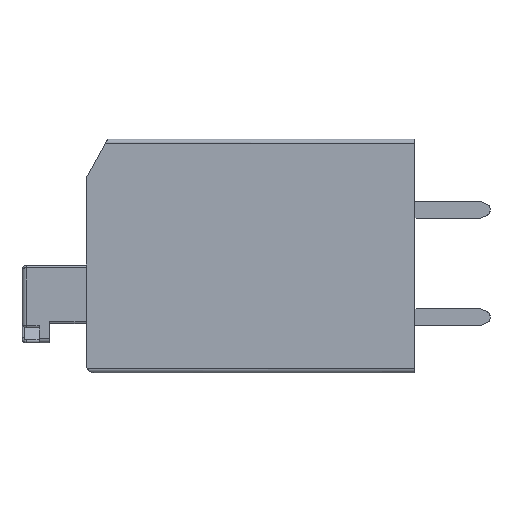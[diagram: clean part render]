
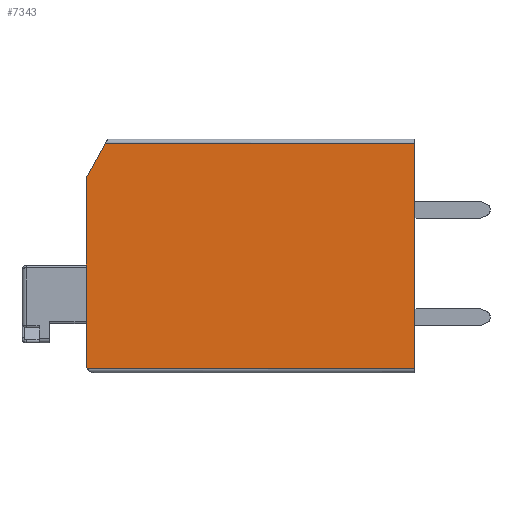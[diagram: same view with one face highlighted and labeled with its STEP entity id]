
A CAD part, left-side view. The second image highlights one B-rep face of the part: STEP entity #7343.
In plain terms, the highlighted planar face has unit normal (-1, 0, 0).
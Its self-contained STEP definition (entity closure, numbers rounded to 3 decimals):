
#189=DIRECTION('',(0.,0.,-1.));
#190=VECTOR('',#189,8.7);
#191=CARTESIAN_POINT('',(0.,15.3,-1.8));
#192=LINE('',#191,#190);
#428=CARTESIAN_POINT('',(0.,14.411,-0.2));
#628=CARTESIAN_POINT('',(0.,14.9,-10.5));
#629=DIRECTION('',(1.,0.,0.));
#630=DIRECTION('',(0.,0.866,-0.5));
#631=AXIS2_PLACEMENT_3D('',#628,#629,#630);
#633=DIRECTION('',(0.,-0.486,0.874));
#634=VECTOR('',#633,1.83);
#635=CARTESIAN_POINT('',(0.,15.3,-1.8));
#636=LINE('',#635,#634);
#641=DIRECTION('',(0.,1.,0.));
#642=VECTOR('',#641,14.411);
#643=CARTESIAN_POINT('',(0.,0.,-0.2));
#644=LINE('',#643,#642);
#658=DIRECTION('',(0.,0.,1.));
#659=VECTOR('',#658,10.5);
#660=CARTESIAN_POINT('',(0.,0.,-10.7));
#661=LINE('',#660,#659);
#802=CARTESIAN_POINT('',(0.,15.246,-10.7));
#804=DIRECTION('',(0.,-1.,0.));
#805=VECTOR('',#804,15.246);
#806=CARTESIAN_POINT('',(0.,15.246,-10.7));
#807=LINE('',#806,#805);
#5231=CARTESIAN_POINT('',(0.,15.3,-1.8));
#5232=VERTEX_POINT('',#5231);
#5233=CARTESIAN_POINT('',(0.,15.3,-10.5));
#5234=VERTEX_POINT('',#5233);
#5303=VERTEX_POINT('',#428);
#5360=CARTESIAN_POINT('',(0.,0.,-10.7));
#5361=VERTEX_POINT('',#5360);
#5362=CARTESIAN_POINT('',(0.,0.,-0.2));
#5363=VERTEX_POINT('',#5362);
#5370=VERTEX_POINT('',#802);
#7327=CARTESIAN_POINT('',(0.,0.,0.));
#7328=DIRECTION('',(1.,0.,0.));
#7329=DIRECTION('',(0.,-1.,0.));
#7330=AXIS2_PLACEMENT_3D('',#7327,#7328,#7329);
#7331=PLANE('',#7330);
#7332=ORIENTED_EDGE('',*,*,#7319,.T.);
#7333=ORIENTED_EDGE('',*,*,#6978,.F.);
#7334=ORIENTED_EDGE('',*,*,#7086,.T.);
#7336=ORIENTED_EDGE('',*,*,#7335,.F.);
#7338=ORIENTED_EDGE('',*,*,#7337,.F.);
#7340=ORIENTED_EDGE('',*,*,#7339,.F.);
#7341=EDGE_LOOP('',(#7332,#7333,#7334,#7336,#7338,#7340));
#7342=FACE_OUTER_BOUND('',#7341,.F.);
#7343=ADVANCED_FACE('',(#7342),#7331,.F.);
#632=CIRCLE('',#631,0.4);
#6978=EDGE_CURVE('',#5232,#5234,#192,.T.);
#7086=EDGE_CURVE('',#5232,#5303,#636,.T.);
#7319=EDGE_CURVE('',#5370,#5234,#632,.T.);
#7335=EDGE_CURVE('',#5363,#5303,#644,.T.);
#7337=EDGE_CURVE('',#5361,#5363,#661,.T.);
#7339=EDGE_CURVE('',#5370,#5361,#807,.T.);
